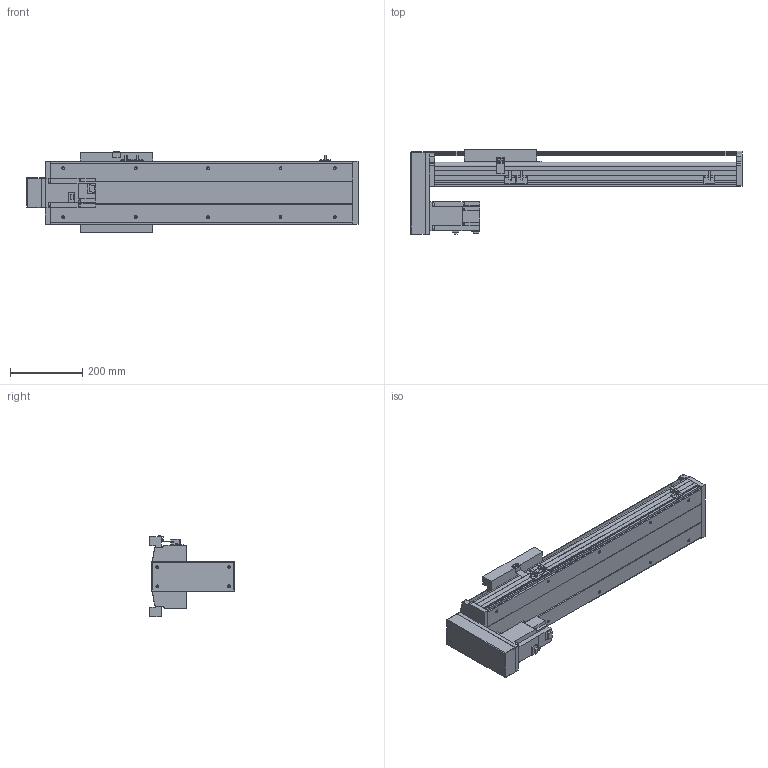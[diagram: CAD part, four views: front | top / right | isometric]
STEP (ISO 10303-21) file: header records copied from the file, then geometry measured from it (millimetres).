
FILE_DESCRIPTION(/* description */ ('STEP AP214'),/* implementation_level */ '2;1');
FILE_NAME(/* name */ 'PSS200-L10-S500-BM-T75-C1-N(0)',/* time_stamp */ '2022-06-06T04:44:39+02:00',/* author */ ('License CC BY-ND 4.0'),/* organization */ ('CADENAS'),/* preprocessor_version */ 'ST-DEVELOPER v18.102',/* originating_system */ 'PARTsolutions',/* authorisation */ ' ');
FILE_SCHEMA (('AUTOMOTIVE_DESIGN {1 0 10303 214 3 1 1}'));
Length unit declared in the file: millimetre
Products named in the file (8): PSS200-L10-S500-BM-T75-C1-N(0); PSS200-S500-BM-N_S; T75-p1; PSS200BM-N_h; PSS200-N_sensor; PSS200-BM-C1-N_sl; PSS200-N_Q; PSS200-S500-BM-C1-N_body
Assembly tree (9 placements, depth 2):
  PSS200-L10-S500-BM-T75-C1-N(0)
    PSS200-S500-BM-N_S
    T75-p1
    PSS200BM-N_h
    PSS200-N_sensor  x3
    PSS200-BM-C1-N_sl
    PSS200-N_Q
    PSS200-S500-BM-C1-N_body
Bounding box: 916.85 x 234.45 x 223.86 mm (x, y, z)
Volume: 7024649 mm3; surface area: 1536225.6 mm2
Topology: 9 solids, 9 shells, 594 faces, 1589 edges, 1054 vertices
Faces by surface type: plane 452, cylinder 120, cone 18, sphere 4
Full cylindrical faces by diameter (mm): 4 x2, 4.5 x4, 6 x7, 6.647 x14, 7.4 x4, 8 x8, 10 x6, 25 x1, 40 x1, 67 x1
Entity records: 16528 total; most frequent: CARTESIAN_POINT 2869, DIRECTION 2727, ORIENTED_EDGE 2710, EDGE_CURVE 1355, LINE 1071, VECTOR 1071, VERTEX_POINT 938, AXIS2_PLACEMENT_3D 828
